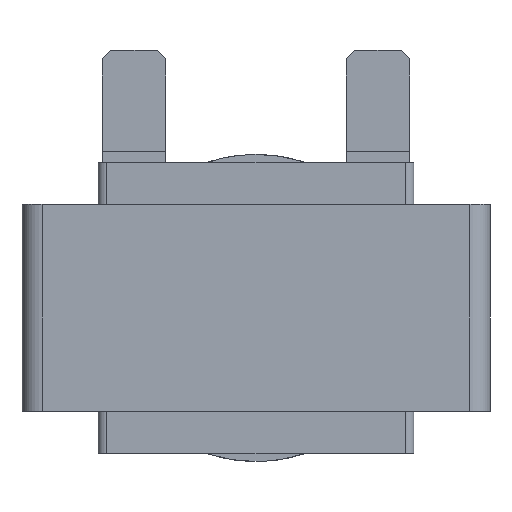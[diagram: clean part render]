
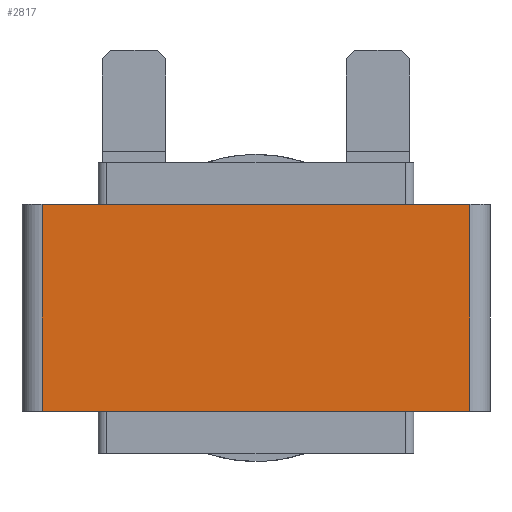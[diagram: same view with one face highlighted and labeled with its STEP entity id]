
A CAD part, front view. The second image highlights one B-rep face of the part: STEP entity #2817.
In plain terms, the highlighted planar face has unit normal (0, -1, 0).
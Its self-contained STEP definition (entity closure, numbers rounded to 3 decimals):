
#62 = ORIENTED_EDGE ( 'NONE', *, *, #7102, .F. ) ;
#149 = VECTOR ( 'NONE', #1399, 1000. ) ;
#1167 = VERTEX_POINT ( 'NONE', #9656 ) ;
#1288 = DIRECTION ( 'NONE',  ( 1., 0., 0. ) ) ;
#1399 = DIRECTION ( 'NONE',  ( 0., 0., -1. ) ) ;
#1989 = LINE ( 'NONE', #14726, #14861 ) ;
#2516 = ORIENTED_EDGE ( 'NONE', *, *, #5943, .T. ) ;
#2817 = ADVANCED_FACE ( 'NONE', ( #7000 ), #5315, .F. ) ;
#4590 = VERTEX_POINT ( 'NONE', #7104 ) ;
#4994 = DIRECTION ( 'NONE',  ( 1., 0., 0. ) ) ;
#5315 = PLANE ( 'NONE',  #14365 ) ;
#5385 = CARTESIAN_POINT ( 'NONE',  ( -25.43, -10.381, 12.3 ) ) ;
#5943 = EDGE_CURVE ( 'NONE', #1167, #6517, #15852, .T. ) ;
#5995 = CARTESIAN_POINT ( 'NONE',  ( -25.43, -10.381, -12.3 ) ) ;
#6517 = VERTEX_POINT ( 'NONE', #19571 ) ;
#6823 = ORIENTED_EDGE ( 'NONE', *, *, #7277, .T. ) ;
#7000 = FACE_OUTER_BOUND ( 'NONE', #9314, .T. ) ;
#7102 = EDGE_CURVE ( 'NONE', #4590, #16206, #1989, .T. ) ;
#7104 = CARTESIAN_POINT ( 'NONE',  ( -25.43, -10.381, 12.3 ) ) ;
#7277 = EDGE_CURVE ( 'NONE', #4590, #1167, #14839, .T. ) ;
#7494 = DIRECTION ( 'NONE',  ( 0., 0., -1. ) ) ;
#8429 = VECTOR ( 'NONE', #7494, 1000. ) ;
#9100 = CARTESIAN_POINT ( 'NONE',  ( 25.43, -10.381, 12.3 ) ) ;
#9314 = EDGE_LOOP ( 'NONE', ( #2516, #14226, #62, #6823 ) ) ;
#9455 = VECTOR ( 'NONE', #1288, 1000. ) ;
#9656 = CARTESIAN_POINT ( 'NONE',  ( -25.43, -10.381, -12.3 ) ) ;
#11923 = DIRECTION ( 'NONE',  ( 0., 1., 0. ) ) ;
#12289 = CARTESIAN_POINT ( 'NONE',  ( 25.43, -10.381, 12.3 ) ) ;
#13239 = EDGE_CURVE ( 'NONE', #16206, #6517, #16435, .T. ) ;
#14226 = ORIENTED_EDGE ( 'NONE', *, *, #13239, .F. ) ;
#14365 = AXIS2_PLACEMENT_3D ( 'NONE', #5385, #11923, #19667 ) ;
#14726 = CARTESIAN_POINT ( 'NONE',  ( -25.43, -10.381, 12.3 ) ) ;
#14839 = LINE ( 'NONE', #18443, #8429 ) ;
#14861 = VECTOR ( 'NONE', #4994, 1000. ) ;
#15852 = LINE ( 'NONE', #5995, #9455 ) ;
#16206 = VERTEX_POINT ( 'NONE', #9100 ) ;
#16435 = LINE ( 'NONE', #12289, #149 ) ;
#18443 = CARTESIAN_POINT ( 'NONE',  ( -25.43, -10.381, 12.3 ) ) ;
#19571 = CARTESIAN_POINT ( 'NONE',  ( 25.43, -10.381, -12.3 ) ) ;
#19667 = DIRECTION ( 'NONE',  ( 0., 0., 1. ) ) ;
